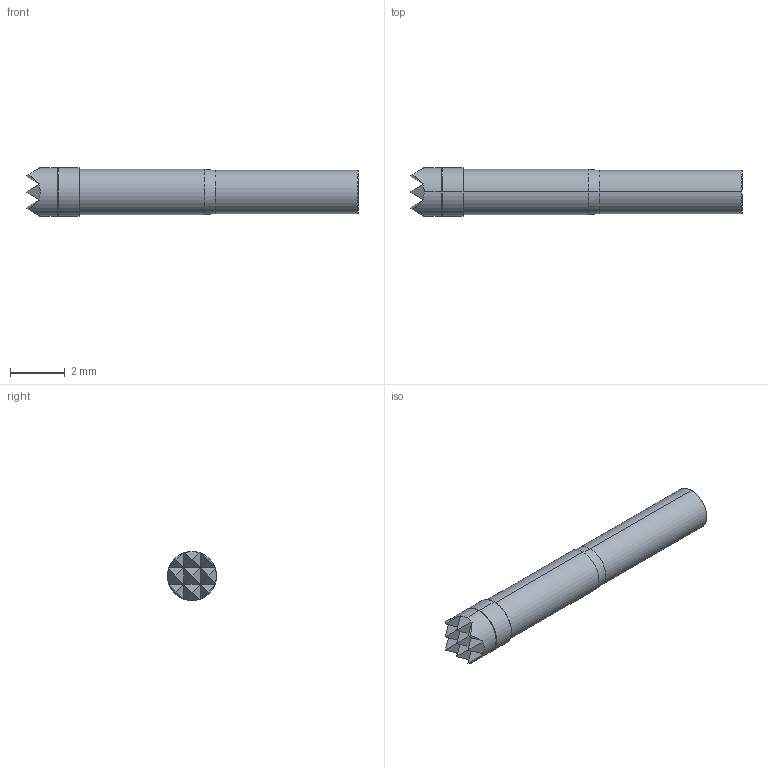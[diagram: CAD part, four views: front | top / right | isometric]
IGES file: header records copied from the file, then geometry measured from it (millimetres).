
Start section: SolidWorks IGES file using analytic representation for surfaces
Global section: file name: O:\PYLON\IGES FILES\E-S\E-S-W FULL.IGS; native system: SolidWorks 2015; preprocessor: SolidWorks 2015; author: kgolden; date: 171024.085015; units: inch
Bounding box: 12.09 x 1.78 x 1.78 mm (x, y, z)
Surface area: 79.5 mm2 (no closed solid volume)
Topology: 0 solids, 0 shells, 55 faces, 414 edges, 414 vertices
Faces by surface type: bspline 41, revolution 14
